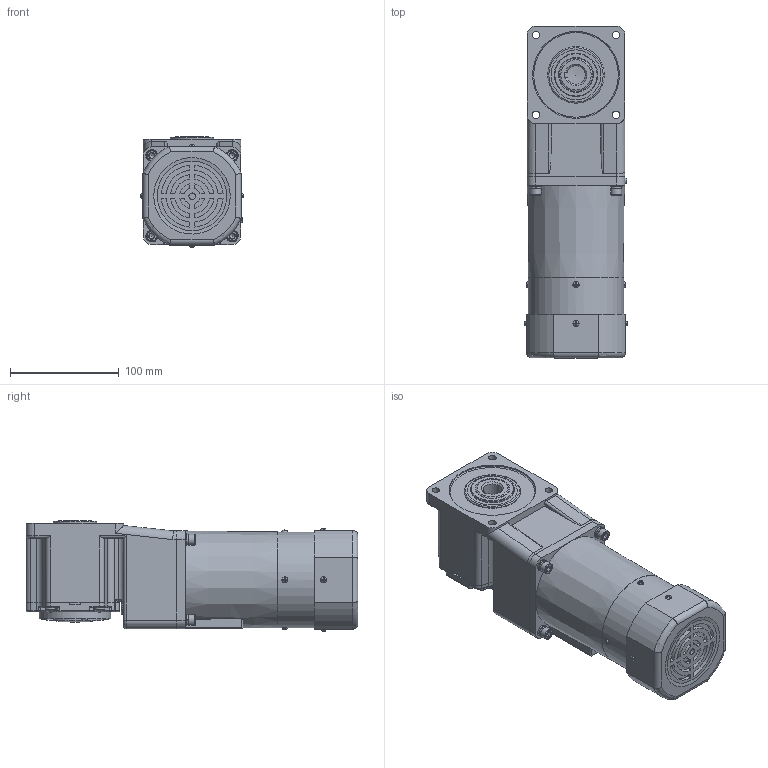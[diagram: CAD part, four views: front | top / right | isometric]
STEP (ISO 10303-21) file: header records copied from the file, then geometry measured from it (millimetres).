
FILE_DESCRIPTION(/* description */ (''),/* implementation_level */ '2;1');
FILE_NAME(/* name */ '90+中空直角-刹车风叶-60W.stp',/* time_stamp */ '2022-09-27T11:02:20+08:00',/* author */ (''),/* organization */ (''),/* preprocessor_version */ 'ST-DEVELOPER v16.7',/* originating_system */ 'SIEMENS PLM Software NX 1899',/* authorisation */ '');
FILE_SCHEMA (('AP203_CONFIGURATION_CONTROLLED_3D_DESIGN_OF_MECHANICAL_PARTS_AND_ASSEMBLIES_MIM_LF { 1 0 10303 403 2 1 2}'));
Length unit declared in the file: millimetre
Products named in the file (1): yf1815905F60ugva
Bounding box: 94.84 x 305.5 x 101.92 mm (x, y, z)
Volume: 2067524 mm3; surface area: 171900.7 mm2
Topology: 15 solids, 15 shells, 817 faces, 1955 edges, 1209 vertices
Faces by surface type: plane 448, cylinder 234, torus 63, cone 50, bspline 12, sphere 10
Full cylindrical faces by diameter (mm): 3.3 x2, 4.5 x2, 5 x4, 5.5 x4, 5.795 x4, 6 x1, 6.4 x4, 7 x8, 9.5 x4, 10 x4, 11 x4, 30 x2, 40 x1, 47 x1, 47.5 x1, 52 x1, 60 x1, 60.5 x1, 66 x1, 67 x1, 76 x1, 80 x1, 86 x2, 87.914 x1
Entity records: 25874 total; most frequent: CARTESIAN_POINT 6526, DIRECTION 3748, ORIENTED_EDGE 3542, EDGE_CURVE 1771, AXIS2_PLACEMENT_3D 1422, VERTEX_POINT 1155, EDGE_LOOP 1008, LINE 904
